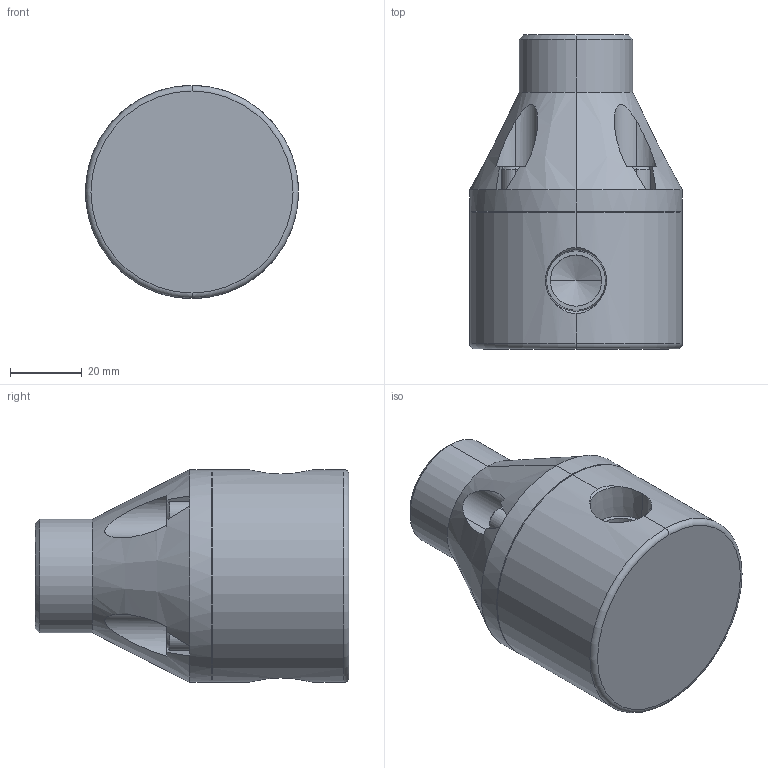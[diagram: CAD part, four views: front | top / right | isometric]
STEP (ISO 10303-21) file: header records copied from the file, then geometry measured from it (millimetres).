
FILE_DESCRIPTION (( 'STEP AP203' ), '1' );
FILE_NAME ('MBP0375-NPT.STEP', '2015-03-17T10:16:49', ( 'Dan Bernard' ), ( '' ), 'SwSTEP 2.0', 'SolidWorks 2008', '' );
FILE_SCHEMA (( 'CONFIG_CONTROL_DESIGN' ));
Length unit declared in the file: inch
Products named in the file (1): MBP0375-NPT
Bounding box: 59.44 x 87.63 x 59.44 mm (x, y, z)
Volume: 170427.7 mm3; surface area: 24572.6 mm2
Topology: 1 solids, 1 shells, 130 faces, 316 edges, 198 vertices
Faces by surface type: plane 70, cylinder 30, cone 28, torus 2
Entity records: 4203 total; most frequent: CARTESIAN_POINT 1073, DIRECTION 640, ORIENTED_EDGE 624, EDGE_CURVE 312, AXIS2_PLACEMENT_3D 227, VERTEX_POINT 198, VECTOR 186, LINE 186
